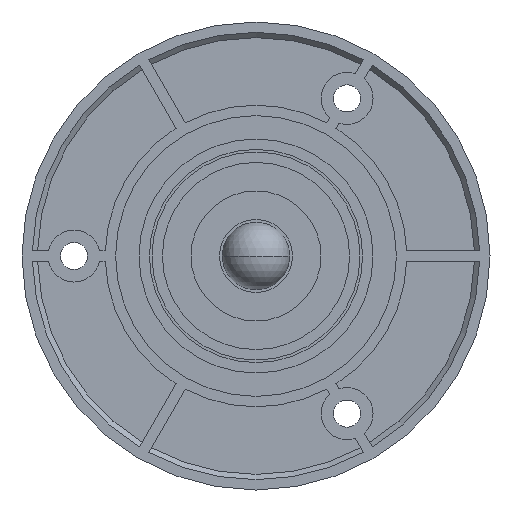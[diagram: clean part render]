
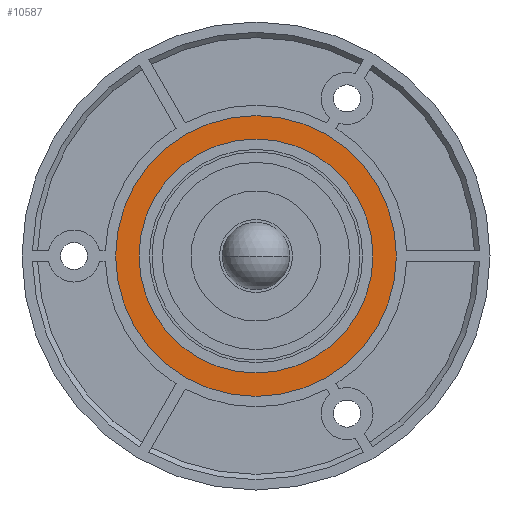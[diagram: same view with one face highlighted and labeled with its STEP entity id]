
A CAD part, left-side view. The second image highlights one B-rep face of the part: STEP entity #10587.
In plain terms, the highlighted planar face has unit normal (-1, 0, 0).
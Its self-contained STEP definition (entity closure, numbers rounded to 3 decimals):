
#249 = ORIENTED_EDGE ( 'NONE', *, *, #17504, .F. ) ;
#477 = PLANE ( 'NONE',  #7359 ) ;
#825 = CARTESIAN_POINT ( 'NONE',  ( -62.5, -27., 0. ) ) ;
#1006 = AXIS2_PLACEMENT_3D ( 'NONE', #2127, #3179, #6244 ) ;
#1526 = VERTEX_POINT ( 'NONE', #7403 ) ;
#1600 = DIRECTION ( 'NONE',  ( 0., -1., 0. ) ) ;
#1686 = AXIS2_PLACEMENT_3D ( 'NONE', #5856, #14535, #13036 ) ;
#1943 = CIRCLE ( 'NONE', #6108, 22.5 ) ;
#2127 = CARTESIAN_POINT ( 'NONE',  ( -62.5, 0., 0. ) ) ;
#2620 = CARTESIAN_POINT ( 'NONE',  ( -62.5, 0., 0. ) ) ;
#2691 = EDGE_CURVE ( 'NONE', #12655, #1526, #15597, .T. ) ;
#3179 = DIRECTION ( 'NONE',  ( 1., 0., 0. ) ) ;
#5310 = CIRCLE ( 'NONE', #7713, 27. ) ;
#5542 = EDGE_CURVE ( 'NONE', #1526, #12655, #1943, .T. ) ;
#5684 = DIRECTION ( 'NONE',  ( 1., 0., 0. ) ) ;
#5707 = ORIENTED_EDGE ( 'NONE', *, *, #2691, .T. ) ;
#5794 = DIRECTION ( 'NONE',  ( -1., 0., 0. ) ) ;
#5856 = CARTESIAN_POINT ( 'NONE',  ( -62.5, 0., 0. ) ) ;
#5890 = CARTESIAN_POINT ( 'NONE',  ( -62.5, 27., 0. ) ) ;
#6108 = AXIS2_PLACEMENT_3D ( 'NONE', #13528, #13442, #6550 ) ;
#6244 = DIRECTION ( 'NONE',  ( 0., 1., 0. ) ) ;
#6550 = DIRECTION ( 'NONE',  ( 0., 1., 0. ) ) ;
#7100 = DIRECTION ( 'NONE',  ( 0., 1., 0. ) ) ;
#7274 = EDGE_CURVE ( 'NONE', #17715, #13585, #16262, .T. ) ;
#7359 = AXIS2_PLACEMENT_3D ( 'NONE', #5890, #5794, #1600 ) ;
#7403 = CARTESIAN_POINT ( 'NONE',  ( -62.5, 22.5, 0. ) ) ;
#7713 = AXIS2_PLACEMENT_3D ( 'NONE', #2620, #5684, #7100 ) ;
#7976 = CARTESIAN_POINT ( 'NONE',  ( -62.5, -22.5, 0. ) ) ;
#8694 = FACE_OUTER_BOUND ( 'NONE', #12309, .T. ) ;
#10587 = ADVANCED_FACE ( 'NONE', ( #14473, #8694 ), #477, .T. ) ;
#12309 = EDGE_LOOP ( 'NONE', ( #12490, #249 ) ) ;
#12490 = ORIENTED_EDGE ( 'NONE', *, *, #7274, .F. ) ;
#12655 = VERTEX_POINT ( 'NONE', #7976 ) ;
#13036 = DIRECTION ( 'NONE',  ( 0., 1., 0. ) ) ;
#13330 = EDGE_LOOP ( 'NONE', ( #17891, #5707 ) ) ;
#13442 = DIRECTION ( 'NONE',  ( 1., 0., 0. ) ) ;
#13528 = CARTESIAN_POINT ( 'NONE',  ( -62.5, 0., 0. ) ) ;
#13585 = VERTEX_POINT ( 'NONE', #825 ) ;
#14473 = FACE_BOUND ( 'NONE', #13330, .T. ) ;
#14535 = DIRECTION ( 'NONE',  ( 1., 0., 0. ) ) ;
#15597 = CIRCLE ( 'NONE', #1006, 22.5 ) ;
#16262 = CIRCLE ( 'NONE', #1686, 27. ) ;
#16482 = CARTESIAN_POINT ( 'NONE',  ( -62.5, 27., 0. ) ) ;
#17504 = EDGE_CURVE ( 'NONE', #13585, #17715, #5310, .T. ) ;
#17715 = VERTEX_POINT ( 'NONE', #16482 ) ;
#17891 = ORIENTED_EDGE ( 'NONE', *, *, #5542, .T. ) ;
